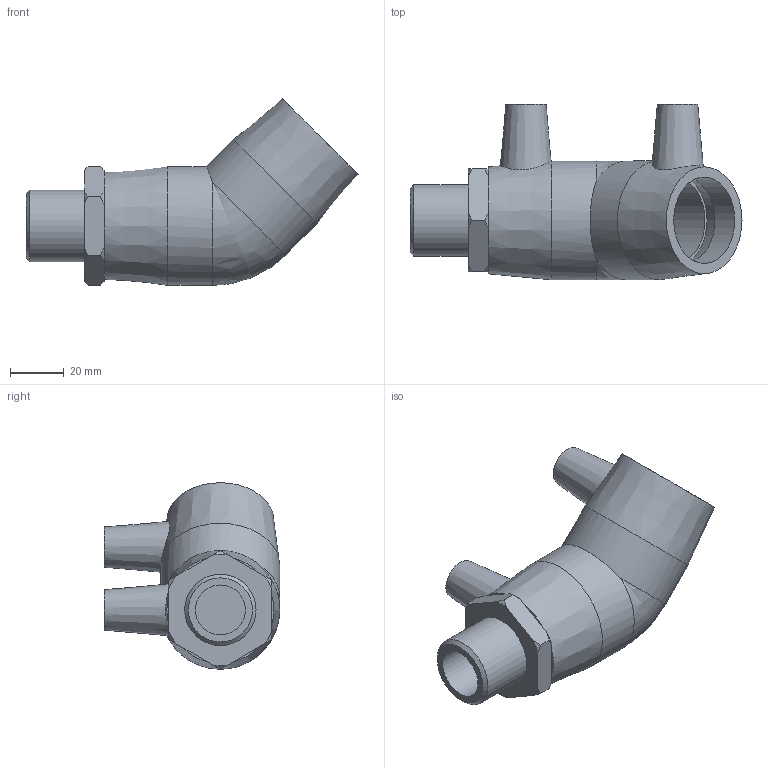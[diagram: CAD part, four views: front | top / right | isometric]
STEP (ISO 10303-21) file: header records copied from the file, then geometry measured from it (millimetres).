
FILE_DESCRIPTION(/* description */ ('PLASSON 45° ELBOW TRANSITION MALE 32-3/4"'),/* implementation_level */ '2;1');
FILE_NAME(/* name */ 'C:\Dropbox\KIMPROJECTS-Inventor\99-16-3568-Processing\ElectroFusion Fittings\02.02.20\492604\492604032007.ipt.stp',/* time_stamp */ '2020-02-02T12:19:50+02:00',/* author */ ('KIM'),/* organization */ (''),/* preprocessor_version */ 'ST-DEVELOPER v15.6',/* originating_system */ 'Autodesk Inventor 2015',/* authorisation */ '');
FILE_SCHEMA (('AUTOMOTIVE_DESIGN { 1 0 10303 214 3 1 1 }'));
Length unit declared in the file: millimetre
Products named in the file (1): 492604032007
Bounding box: 123 x 65 x 69.14 mm (x, y, z)
Volume: 106753.1 mm3; surface area: 32240.3 mm2
Topology: 1 solids, 2 shells, 59 faces, 133 edges, 88 vertices
Faces by surface type: plane 24, cone 19, cylinder 15, bspline 1
Full cylindrical faces by diameter (mm): 4 x2, 10 x2, 18.509 x1, 20.8 x2, 23 x1, 26.441 x1, 32 x4, 44 x2
Entity records: 1500 total; most frequent: CARTESIAN_POINT 369, DIRECTION 236, ORIENTED_EDGE 188, AXIS2_PLACEMENT_3D 109, EDGE_LOOP 97, EDGE_CURVE 94, VERTEX_POINT 75, FACE_OUTER_BOUND 59
